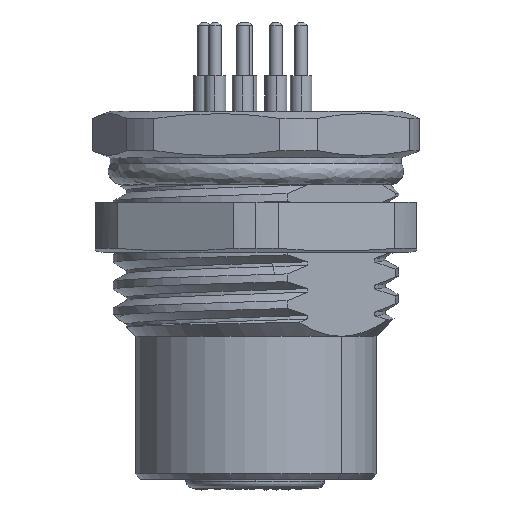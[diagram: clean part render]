
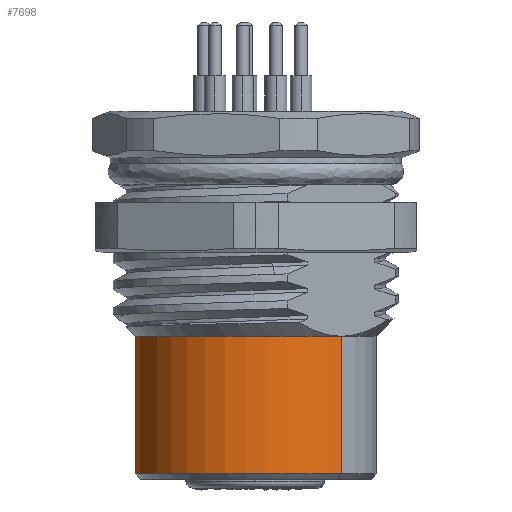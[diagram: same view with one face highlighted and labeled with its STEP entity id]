
A CAD part, front view. The second image highlights one B-rep face of the part: STEP entity #7698.
In plain terms, the highlighted cylindrical face has radius 6.75 mm (diameter 13.5 mm), a partial arc.
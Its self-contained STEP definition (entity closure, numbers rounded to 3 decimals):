
#155 = CARTESIAN_POINT ( 'NONE',  ( 4.773, -4.773, -7.7 ) ) ;
#456 = DIRECTION ( 'NONE',  ( -0.707, -0.707, 0. ) ) ;
#697 = DIRECTION ( 'NONE',  ( 0., 0., -1. ) ) ;
#2314 = DIRECTION ( 'NONE',  ( -0.707, 0.707, 0. ) ) ;
#2552 = ORIENTED_EDGE ( 'NONE', *, *, #38124, .F. ) ;
#4233 = LINE ( 'NONE', #33754, #12112 ) ;
#4254 = DIRECTION ( 'NONE',  ( 0., 0., -1. ) ) ;
#4398 = EDGE_CURVE ( 'NONE', #28772, #29248, #4233, .T. ) ;
#5244 = CARTESIAN_POINT ( 'NONE',  ( 0., 0., 0. ) ) ;
#7698 = ADVANCED_FACE ( 'NONE', ( #9400 ), #16821, .T. ) ;
#9400 = FACE_OUTER_BOUND ( 'NONE', #24387, .T. ) ;
#10223 = AXIS2_PLACEMENT_3D ( 'NONE', #5244, #14885, #2314 ) ;
#10293 = EDGE_CURVE ( 'NONE', #10747, #28772, #16829, .T. ) ;
#10747 = VERTEX_POINT ( 'NONE', #19167 ) ;
#12112 = VECTOR ( 'NONE', #24448, 1000. ) ;
#12920 = ORIENTED_EDGE ( 'NONE', *, *, #10293, .T. ) ;
#13031 = CARTESIAN_POINT ( 'NONE',  ( 0., 0., 0. ) ) ;
#13070 = CARTESIAN_POINT ( 'NONE',  ( 4.773, -4.773, 0. ) ) ;
#14885 = DIRECTION ( 'NONE',  ( 0., 0., -1. ) ) ;
#16821 = CYLINDRICAL_SURFACE ( 'NONE', #10223, 6.75 ) ;
#16829 = CIRCLE ( 'NONE', #23448, 6.75 ) ;
#19167 = CARTESIAN_POINT ( 'NONE',  ( 4.773, -4.773, 0. ) ) ;
#21919 = EDGE_CURVE ( 'NONE', #10747, #24313, #29330, .T. ) ;
#23448 = AXIS2_PLACEMENT_3D ( 'NONE', #13031, #28795, #456 ) ;
#24313 = VERTEX_POINT ( 'NONE', #155 ) ;
#24387 = EDGE_LOOP ( 'NONE', ( #40767, #12920, #37933, #2552 ) ) ;
#24448 = DIRECTION ( 'NONE',  ( 0., 0., -1. ) ) ;
#28314 = VECTOR ( 'NONE', #4254, 1000. ) ;
#28772 = VERTEX_POINT ( 'NONE', #35486 ) ;
#28795 = DIRECTION ( 'NONE',  ( 0., 0., -1. ) ) ;
#29248 = VERTEX_POINT ( 'NONE', #34263 ) ;
#29330 = LINE ( 'NONE', #13070, #28314 ) ;
#33754 = CARTESIAN_POINT ( 'NONE',  ( -4.773, 4.773, 0. ) ) ;
#34263 = CARTESIAN_POINT ( 'NONE',  ( -4.773, 4.773, -7.7 ) ) ;
#34519 = AXIS2_PLACEMENT_3D ( 'NONE', #38602, #697, #38730 ) ;
#34533 = CIRCLE ( 'NONE', #34519, 6.75 ) ;
#35486 = CARTESIAN_POINT ( 'NONE',  ( -4.773, 4.773, 0. ) ) ;
#37933 = ORIENTED_EDGE ( 'NONE', *, *, #4398, .T. ) ;
#38124 = EDGE_CURVE ( 'NONE', #24313, #29248, #34533, .T. ) ;
#38602 = CARTESIAN_POINT ( 'NONE',  ( 0., 0., -7.7 ) ) ;
#38730 = DIRECTION ( 'NONE',  ( 0.707, 0.707, 0. ) ) ;
#40767 = ORIENTED_EDGE ( 'NONE', *, *, #21919, .F. ) ;
